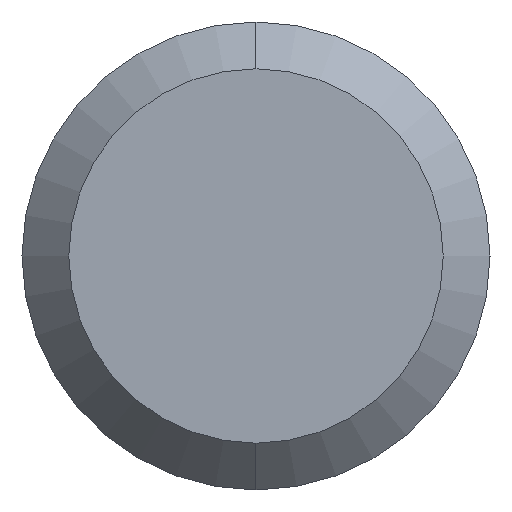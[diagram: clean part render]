
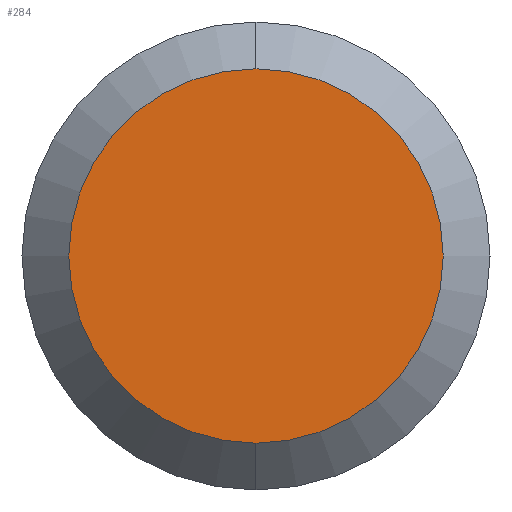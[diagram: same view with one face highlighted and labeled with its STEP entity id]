
A CAD part, left-side view. The second image highlights one B-rep face of the part: STEP entity #284.
In plain terms, the highlighted planar face has unit normal (-1, 0, 0).
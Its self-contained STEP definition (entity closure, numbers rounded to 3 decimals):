
#4 = CIRCLE ( 'NONE', #486, 1.6 ) ;
#56 = DIRECTION ( 'NONE',  ( 0., 0., -1. ) ) ;
#65 = DIRECTION ( 'NONE',  ( -1., 0., 0. ) ) ;
#81 = AXIS2_PLACEMENT_3D ( 'NONE', #273, #158, #445 ) ;
#126 = CIRCLE ( 'NONE', #81, 1.6 ) ;
#158 = DIRECTION ( 'NONE',  ( -1., 0., 0. ) ) ;
#163 = CARTESIAN_POINT ( 'NONE',  ( 0., 0., -1.6 ) ) ;
#186 = EDGE_CURVE ( 'NONE', #236, #221, #4, .T. ) ;
#221 = VERTEX_POINT ( 'NONE', #163 ) ;
#230 = CARTESIAN_POINT ( 'NONE',  ( 0., 0., 0. ) ) ;
#236 = VERTEX_POINT ( 'NONE', #240 ) ;
#240 = CARTESIAN_POINT ( 'NONE',  ( 0., 0., 1.6 ) ) ;
#255 = EDGE_CURVE ( 'NONE', #221, #236, #126, .T. ) ;
#268 = ORIENTED_EDGE ( 'NONE', *, *, #186, .T. ) ;
#273 = CARTESIAN_POINT ( 'NONE',  ( 0., 0., 0. ) ) ;
#284 = ADVANCED_FACE ( 'NONE', ( #286 ), #365, .F. ) ;
#286 = FACE_OUTER_BOUND ( 'NONE', #306, .T. ) ;
#306 = EDGE_LOOP ( 'NONE', ( #321, #268 ) ) ;
#321 = ORIENTED_EDGE ( 'NONE', *, *, #255, .T. ) ;
#344 = AXIS2_PLACEMENT_3D ( 'NONE', #230, #485, #56 ) ;
#365 = PLANE ( 'NONE',  #344 ) ;
#411 = CARTESIAN_POINT ( 'NONE',  ( 0., 0., 0. ) ) ;
#413 = DIRECTION ( 'NONE',  ( 0., 0., 1. ) ) ;
#445 = DIRECTION ( 'NONE',  ( 0., 0., 1. ) ) ;
#485 = DIRECTION ( 'NONE',  ( 1., 0., 0. ) ) ;
#486 = AXIS2_PLACEMENT_3D ( 'NONE', #411, #65, #413 ) ;
